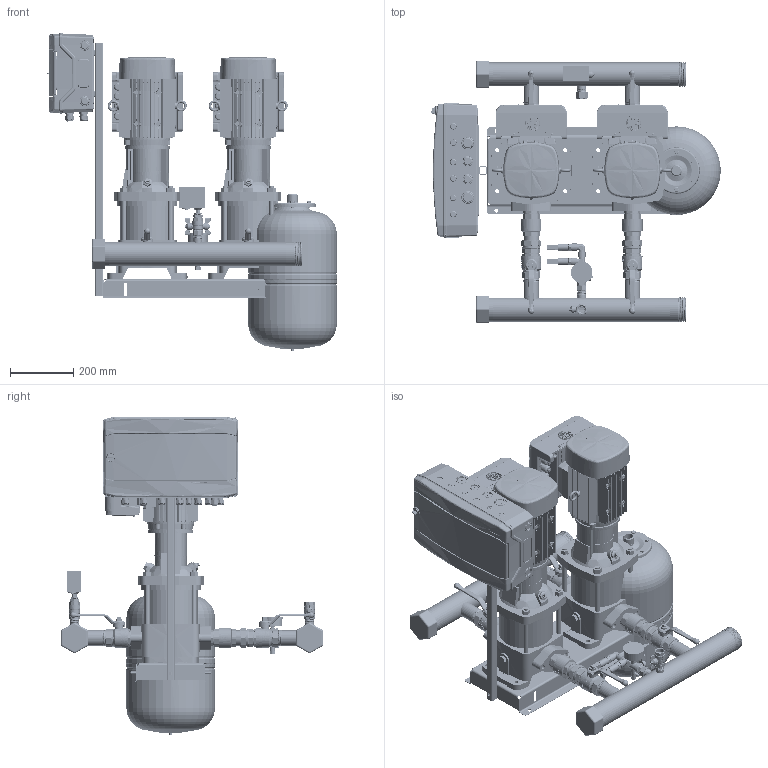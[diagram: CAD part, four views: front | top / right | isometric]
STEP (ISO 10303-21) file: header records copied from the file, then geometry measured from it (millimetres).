
FILE_DESCRIPTION(('CATIA V5 STEP Exchange','CAx-IF Rec.Pracs.--- Model Styling and Organization---1.4--- 2014-01-23','CAx-IF Rec.Pracs.---3D Tessellated Data Validation Properties---0.5---2014-09-14'),'2;1');
FILE_NAME('C:\Users\78432\YandexDisk\Drawings and 3D\3D Hydro Booster\Hydro-ME 3D\Hydro Models\Hydro ME 2 CRV10-xx\Hydro ME 2 CRVE10-4.stp','2023-09-20T09:29:09+00:00',('none'),('none'),'CATIA Version 5-6 Release 2019 SP6','CATIA V5 STEP AP242 v1','none');
FILE_SCHEMA(('AP242_MANAGED_MODEL_BASED_3D_ENGINEERING_MIM_LF {1 0 10303 442 1 1 4}'));
Length unit declared in the file: millimetre
Products named in the file (46): Hydro ME 2 CRVE10-4; 92051008; CRV10-4 Set; CRV 10-4_A_Oval_1.5kW; Base; Flange.1; Flange.2; Sleeve; Pumphead; Staybolt.1; Staybolt.2; Staybolt.3; Staybolt.4; Plug; AirVent; Motor; 92807544_9022-05; Hydraulica NY DN32 1,5 PN16; DN40_FM_LV_47.303.40; 92807557_9013-05; SAJ PDH30 0,75-2,2kW; 97941444; 405801; 405816; 91040267; 97941481; 00ID7527; Holder and CP 18mod; 92878909; Control ME (18mod); 2 sensors + manometer cpl.; manometr 16 bar; RPD-I-G1_2; 9021-01; 2070 1/2-1/2; _2020 1/2-1/2; 98594078; Tank 24L cpl.; DN20_FF_BF_47.300.20; WAV-24(D140 1'')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
Assembly tree (53 placements, depth 4):
  Hydro ME 2 CRVE10-4
    92051008
    CRV10-4 Set  x2
      CRV 10-4_A_Oval_1.5kW
        Base
        Flange.1
        Flange.2
        Sleeve
        Pumphead
        Staybolt.1
        Staybolt.2
        Staybolt.3
        Staybolt.4
        Plug
        AirVent
        Motor
      92807544_9022-05
      Hydraulica NY DN32 1,5 PN16
      DN40_FM_LV_47.303.40
      92807557_9013-05
      SAJ PDH30 0,75-2,2kW
    97941444  x2
      405801
      405816
      91040267
      97941481
    00ID7527  x2
    Holder and CP 18mod
      92878909
      Control ME (18mod)
    2 sensors + manometer cpl.
      manometr 16 bar
      RPD-I-G1_2  x2
      9021-01
      2070 1/2-1/2
      _2020 1/2-1/2
      98594078
    Tank 24L cpl.
      DN20_FF_BF_47.300.20
      9021-03
    Relay cpl.
      Relay RD-2R
      DN20_FF_BF_47.300.20
      2530 3/4-1/2
      _2530 1/2-1/4
    91078139
  WAV-24(D140 1'')
Bounding box: 916.82 x 829.22 x 1009.9 mm (x, y, z)
Volume: 64004554.1 mm3; surface area: 6445265.4 mm2
Topology: 164 solids, 192 shells, 25333 faces, 72776 edges, 48548 vertices
Faces by surface type: plane 9654, bspline 7018, cylinder 6197, cone 1677, torus 350, extrusion 260, sphere 177
Entity records: 620186 total; most frequent: CARTESIAN_POINT 310482, ORIENTED_EDGE 80288, EDGE_CURVE 40617, DIRECTION 35948, VERTEX_POINT 27066, B_SPLINE_CURVE_WITH_KNOTS 16602, VECTOR 16477, LINE 16412
